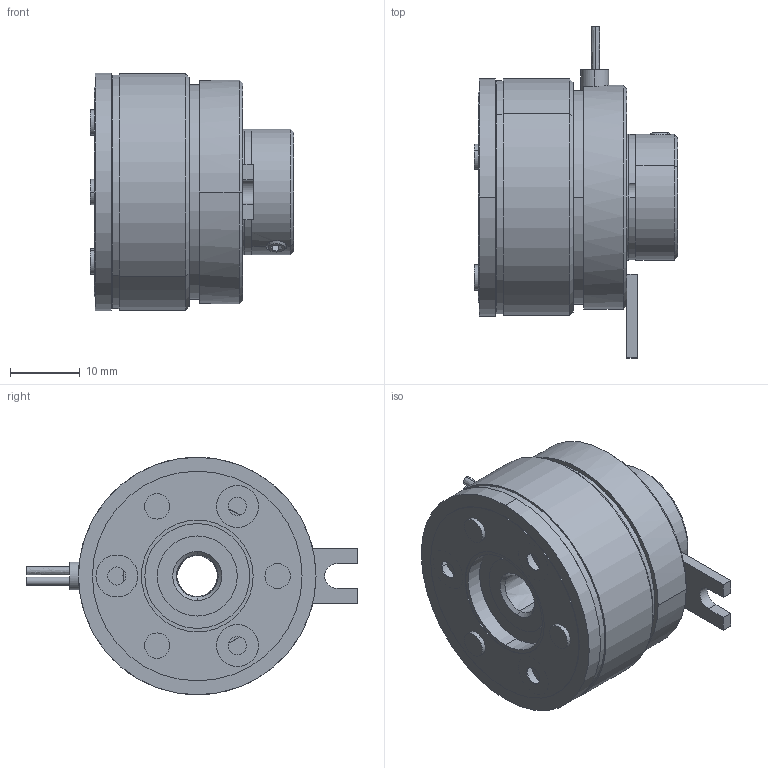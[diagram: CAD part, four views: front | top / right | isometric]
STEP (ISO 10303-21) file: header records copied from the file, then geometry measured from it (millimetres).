
FILE_DESCRIPTION((''),'2;1');
FILE_NAME('G:\Konstruktion\Datenkonvertierung\step\14.100.03.303.stp','2004-01-30T08:14:25',('schöttelndreier'),(''),'Autodesk Inventor 8','Autodesk Inventor 8','');
FILE_SCHEMA(('AUTOMOTIVE_DESIGN { 1 0 10303 214 1 1 1 1 }'));
Length unit declared in the file: millimetre
Products named in the file (20): 14.100.03.303; 14.100.03.991-251; 14.100.03.995-001 dxf; 14.100.03.999-001 dxf; 14.102.02-18.202 dxf; 14.100.03.994-100 dxf; Lager; Spule_03 dxf; 14.100.03.996-001 dxf; 14.100.03.992-300 dxf; 14.100.03.992-152 dxf; Spritzmasse; Reibbelag_03 dxf; 14.100.03.991-300; 14.100.03.003-001; 14.100.03.993-001; 14.102.03-53.002; Niet; DIN 916  (Regelgewinde) M3  x  6
Assembly tree (23 placements, depth 4):
  14.100.03.303
    14.100.03.991-251
    14.100.03.995-001 dxf
      14.100.03.999-001 dxf
        14.100.03.999-001 dxf
        14.102.02-18.202 dxf
      14.100.03.994-100 dxf
      Lager
      Spule_03 dxf
    14.100.03.996-001 dxf
      14.100.03.992-300 dxf
      14.100.03.992-152 dxf
      Spritzmasse
      Reibbelag_03 dxf
    14.100.03.991-300  x2
    14.100.03.003-001
      14.100.03.993-001
      14.102.03-53.002
      Niet  x3
    DIN 916  (Regelgewinde) M3  x  6  x2
Bounding box: 29.15 x 47.5 x 34 mm (x, y, z)
Volume: 17029.2 mm3; surface area: 21212.2 mm2
Topology: 19 solids, 19 shells, 298 faces, 676 edges, 423 vertices
Faces by surface type: cylinder 130, plane 93, cone 56, bspline 13, torus 6
Entity records: 8425 total; most frequent: CARTESIAN_POINT 1949, DIRECTION 1374, ORIENTED_EDGE 1148, EDGE_CURVE 574, AXIS2_PLACEMENT_3D 568, VERTEX_POINT 367, EDGE_LOOP 317, CIRCLE 289
